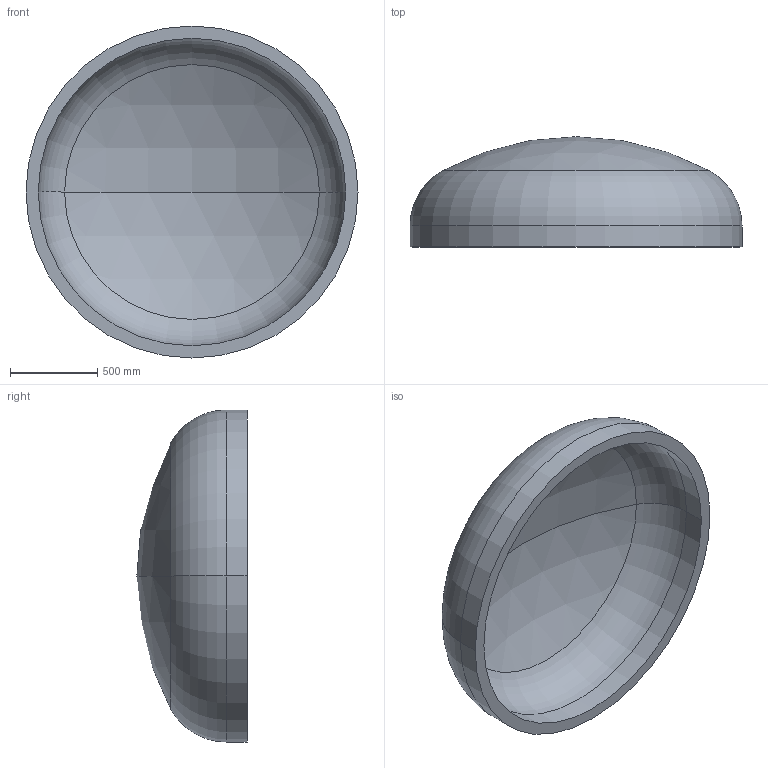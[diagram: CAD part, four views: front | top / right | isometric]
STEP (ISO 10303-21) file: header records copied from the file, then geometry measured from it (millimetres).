
FILE_DESCRIPTION (( 'STEP AP203' ), '1' );
FILE_NAME ('DIN 28013 Korbbogenform_-_Boden DIN 28013 - 1900 x 120 - I - s=70.step', '2016-07-01T13:17:49', ( '' ), ( '' ), 'SwSTEP 2.0', 'SolidWorks 2013', '' );
FILE_SCHEMA (( 'CONFIG_CONTROL_DESIGN' ));
Length unit declared in the file: millimetre
Products named in the file (1): DIN 28013 Korbbogenform_-_Boden DIN 28013 - 1900 x 120 - I - s=70
Bounding box: 1900 x 630.74 x 1900 mm (x, y, z)
Volume: 309853912.2 mm3; surface area: 9265666.9 mm2
Topology: 1 solids, 1 shells, 13 faces, 24 edges, 14 vertices
Faces by surface type: torus 4, cylinder 4, sphere 4, plane 1
Entity records: 407 total; most frequent: DIRECTION 72, CARTESIAN_POINT 52, ORIENTED_EDGE 48, AXIS2_PLACEMENT_3D 34, EDGE_CURVE 24, CIRCLE 20, VERTEX_POINT 14, EDGE_LOOP 14
